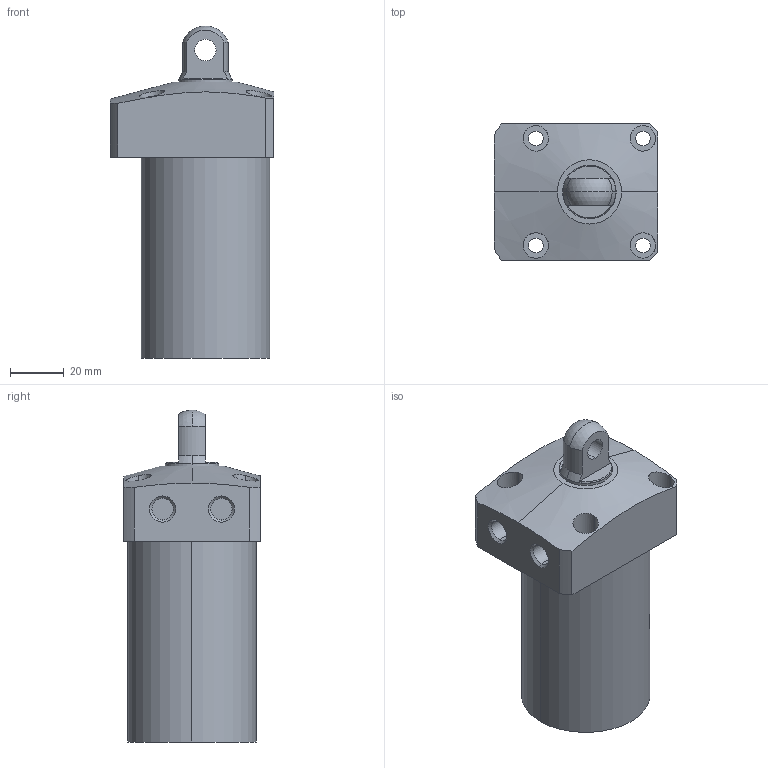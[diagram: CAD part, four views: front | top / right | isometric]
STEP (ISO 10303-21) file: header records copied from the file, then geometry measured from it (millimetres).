
FILE_DESCRIPTION (( 'STEP AP203' ), '1' );
FILE_NAME ('CLL-0480-CP-065.STEP', '2017-05-09T02:54:20', ( '' ), ( '' ), 'SwSTEP 2.0', 'SolidWorks 2015', '' );
FILE_SCHEMA (( 'CONFIG_CONTROL_DESIGN' ));
Length unit declared in the file: millimetre
Products named in the file (1): CLL-0480-CP-065
Bounding box: 61 x 51 x 124 mm (x, y, z)
Volume: 211387.3 mm3; surface area: 25997.7 mm2
Topology: 1 solids, 1 shells, 67 faces, 157 edges, 103 vertices
Faces by surface type: cylinder 35, plane 22, cone 8, sphere 2
Entity records: 2360 total; most frequent: CARTESIAN_POINT 682, DIRECTION 351, ORIENTED_EDGE 314, EDGE_CURVE 157, AXIS2_PLACEMENT_3D 146, VERTEX_POINT 103, EDGE_LOOP 88, CIRCLE 78
